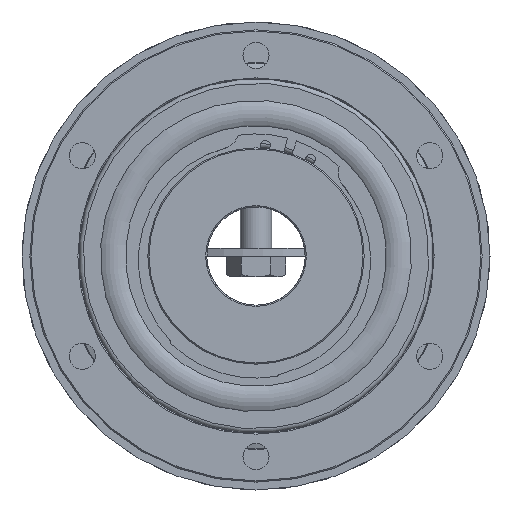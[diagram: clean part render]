
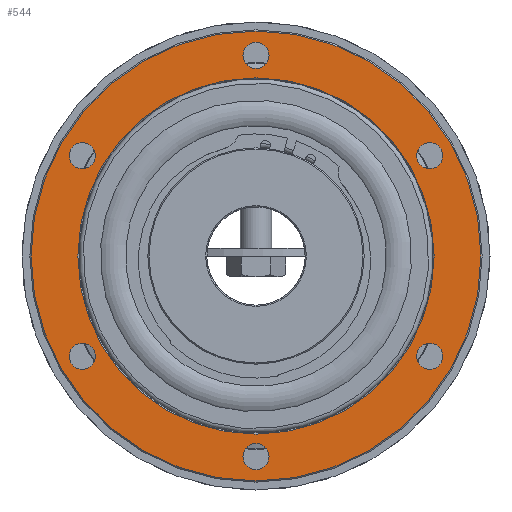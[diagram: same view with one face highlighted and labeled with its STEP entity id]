
A CAD part, left-side view. The second image highlights one B-rep face of the part: STEP entity #544.
In plain terms, the highlighted planar face has unit normal (-1, 0, 0).
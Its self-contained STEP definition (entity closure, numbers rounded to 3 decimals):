
#544 = ADVANCED_FACE( '', ( #1001, #1002, #1003, #1004, #1005, #1006, #1007, #1008 ), #1009, .F. );
#1001 = FACE_OUTER_BOUND( '', #1468, .T. );
#1002 = FACE_BOUND( '', #1469, .T. );
#1003 = FACE_BOUND( '', #1470, .T. );
#1004 = FACE_BOUND( '', #1471, .T. );
#1005 = FACE_BOUND( '', #1472, .T. );
#1006 = FACE_BOUND( '', #1473, .T. );
#1007 = FACE_BOUND( '', #1474, .T. );
#1008 = FACE_BOUND( '', #1475, .T. );
#1009 = PLANE( '', #1476 );
#1468 = EDGE_LOOP( '', ( #2429 ) );
#1469 = EDGE_LOOP( '', ( #2430 ) );
#1470 = EDGE_LOOP( '', ( #2431 ) );
#1471 = EDGE_LOOP( '', ( #2432 ) );
#1472 = EDGE_LOOP( '', ( #2433 ) );
#1473 = EDGE_LOOP( '', ( #2434 ) );
#1474 = EDGE_LOOP( '', ( #2435 ) );
#1475 = EDGE_LOOP( '', ( #2436 ) );
#1476 = AXIS2_PLACEMENT_3D( '', #2437, #2438, #2439 );
#2429 = ORIENTED_EDGE( '', *, *, #2787, .T. );
#2430 = ORIENTED_EDGE( '', *, *, #2788, .T. );
#2431 = ORIENTED_EDGE( '', *, *, #2789, .T. );
#2432 = ORIENTED_EDGE( '', *, *, #2790, .T. );
#2433 = ORIENTED_EDGE( '', *, *, #2791, .T. );
#2434 = ORIENTED_EDGE( '', *, *, #2792, .T. );
#2435 = ORIENTED_EDGE( '', *, *, #2793, .T. );
#2436 = ORIENTED_EDGE( '', *, *, #2794, .T. );
#2437 = CARTESIAN_POINT( '', ( -21.15, 57.5, 0. ) );
#2438 = DIRECTION( '', ( 1., 0., 0. ) );
#2439 = DIRECTION( '', ( 0., 1., 0. ) );
#2787 = EDGE_CURVE( '', #3239, #3239, #3240, .T. );
#2788 = EDGE_CURVE( '', #3241, #3241, #3242, .T. );
#2789 = EDGE_CURVE( '', #3243, #3243, #3244, .T. );
#2790 = EDGE_CURVE( '', #3245, #3245, #3246, .T. );
#2791 = EDGE_CURVE( '', #3247, #3247, #3248, .T. );
#2792 = EDGE_CURVE( '', #3249, #3249, #3250, .T. );
#2793 = EDGE_CURVE( '', #3251, #3251, #3252, .T. );
#2794 = EDGE_CURVE( '', #3253, #3253, #3254, .T. );
#3239 = VERTEX_POINT( '', #4159 );
#3240 = CIRCLE( '', #4160, 57.2 );
#3241 = VERTEX_POINT( '', #4161 );
#3242 = CIRCLE( '', #4162, 45.3 );
#3243 = VERTEX_POINT( '', #4163 );
#3244 = CIRCLE( '', #4164, 3.324 );
#3245 = VERTEX_POINT( '', #4165 );
#3246 = CIRCLE( '', #4166, 3.324 );
#3247 = VERTEX_POINT( '', #4167 );
#3248 = CIRCLE( '', #4168, 3.324 );
#3249 = VERTEX_POINT( '', #4169 );
#3250 = CIRCLE( '', #4170, 3.324 );
#3251 = VERTEX_POINT( '', #4171 );
#3252 = CIRCLE( '', #4172, 3.324 );
#3253 = VERTEX_POINT( '', #4173 );
#3254 = CIRCLE( '', #4174, 3.324 );
#4159 = CARTESIAN_POINT( '', ( -21.15, 0., -57.2 ) );
#4160 = AXIS2_PLACEMENT_3D( '', #4701, #4702, #4703 );
#4161 = CARTESIAN_POINT( '', ( -21.15, 0., -45.3 ) );
#4162 = AXIS2_PLACEMENT_3D( '', #4704, #4705, #4706 );
#4163 = CARTESIAN_POINT( '', ( -21.15, 47.046, 27.162 ) );
#4164 = AXIS2_PLACEMENT_3D( '', #4707, #4708, #4709 );
#4165 = CARTESIAN_POINT( '', ( -21.15, 47.046, -27.162 ) );
#4166 = AXIS2_PLACEMENT_3D( '', #4710, #4711, #4712 );
#4167 = CARTESIAN_POINT( '', ( -21.15, 0., -54.324 ) );
#4168 = AXIS2_PLACEMENT_3D( '', #4713, #4714, #4715 );
#4169 = CARTESIAN_POINT( '', ( -21.15, -47.046, -27.162 ) );
#4170 = AXIS2_PLACEMENT_3D( '', #4716, #4717, #4718 );
#4171 = CARTESIAN_POINT( '', ( -21.15, -47.046, 27.162 ) );
#4172 = AXIS2_PLACEMENT_3D( '', #4719, #4720, #4721 );
#4173 = CARTESIAN_POINT( '', ( -21.15, 0., 54.324 ) );
#4174 = AXIS2_PLACEMENT_3D( '', #4722, #4723, #4724 );
#4701 = CARTESIAN_POINT( '', ( -21.15, 0., 0. ) );
#4702 = DIRECTION( '', ( -1., 0., 0. ) );
#4703 = DIRECTION( '', ( 0., 0., -1. ) );
#4704 = CARTESIAN_POINT( '', ( -21.15, 0., 0. ) );
#4705 = DIRECTION( '', ( 1., 0., 0. ) );
#4706 = DIRECTION( '', ( 0., 0., -1. ) );
#4707 = CARTESIAN_POINT( '', ( -21.15, 44.167, 25.5 ) );
#4708 = DIRECTION( '', ( 1., 0., 0. ) );
#4709 = DIRECTION( '', ( 0., 0.866, 0.5 ) );
#4710 = CARTESIAN_POINT( '', ( -21.15, 44.167, -25.5 ) );
#4711 = DIRECTION( '', ( 1., 0., 0. ) );
#4712 = DIRECTION( '', ( 0., 0.866, -0.5 ) );
#4713 = CARTESIAN_POINT( '', ( -21.15, 0., -51. ) );
#4714 = DIRECTION( '', ( 1., 0., 0. ) );
#4715 = DIRECTION( '', ( 0., 0., -1. ) );
#4716 = CARTESIAN_POINT( '', ( -21.15, -44.167, -25.5 ) );
#4717 = DIRECTION( '', ( 1., 0., 0. ) );
#4718 = DIRECTION( '', ( 0., -0.866, -0.5 ) );
#4719 = CARTESIAN_POINT( '', ( -21.15, -44.167, 25.5 ) );
#4720 = DIRECTION( '', ( 1., 0., 0. ) );
#4721 = DIRECTION( '', ( 0., -0.866, 0.5 ) );
#4722 = CARTESIAN_POINT( '', ( -21.15, 0., 51. ) );
#4723 = DIRECTION( '', ( 1., 0., 0. ) );
#4724 = DIRECTION( '', ( 0., 0., 1. ) );
